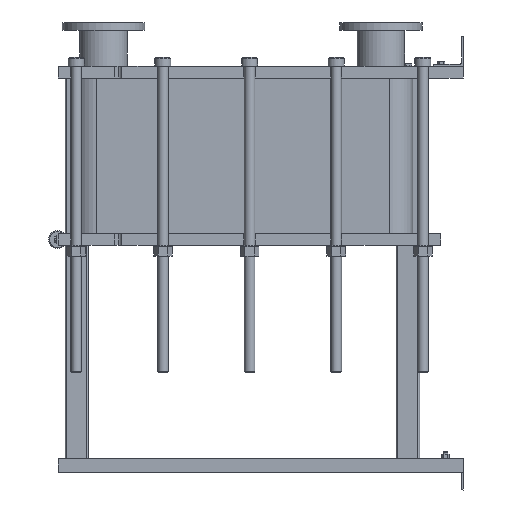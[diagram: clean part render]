
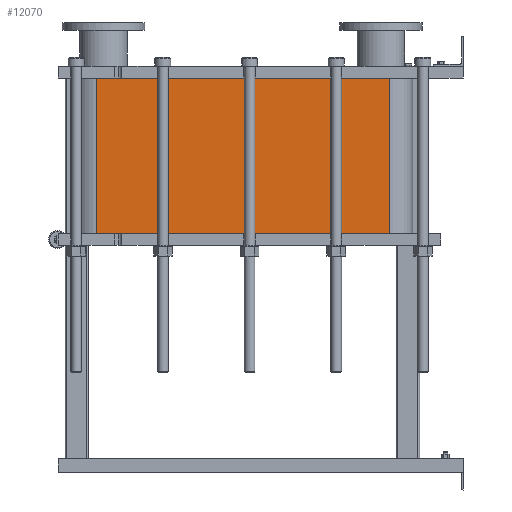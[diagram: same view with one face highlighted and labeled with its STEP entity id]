
A CAD part, left-side view. The second image highlights one B-rep face of the part: STEP entity #12070.
In plain terms, the highlighted planar face has unit normal (-1, 0, 0).
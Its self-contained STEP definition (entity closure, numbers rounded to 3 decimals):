
#1064=LINE('',#21140,#2164);
#1065=LINE('',#21144,#2165);
#1066=LINE('',#21146,#2166);
#1067=LINE('',#21147,#2167);
#2164=VECTOR('',#15790,10.);
#2165=VECTOR('',#15795,10.);
#2166=VECTOR('',#15796,10.);
#2167=VECTOR('',#15797,10.);
#3304=FACE_OUTER_BOUND('',#4091,.T.);
#4091=EDGE_LOOP('',(#9793,#9794,#9795,#9796));
#5677=VERTEX_POINT('',#21137);
#5678=VERTEX_POINT('',#21139);
#5679=VERTEX_POINT('',#21143);
#5680=VERTEX_POINT('',#21145);
#7118=EDGE_CURVE('',#5678,#5677,#1064,.T.);
#7120=EDGE_CURVE('',#5677,#5679,#1065,.T.);
#7121=EDGE_CURVE('',#5680,#5679,#1066,.T.);
#7122=EDGE_CURVE('',#5680,#5678,#1067,.T.);
#9793=ORIENTED_EDGE('',*,*,#7120,.T.);
#9794=ORIENTED_EDGE('',*,*,#7121,.F.);
#9795=ORIENTED_EDGE('',*,*,#7122,.T.);
#9796=ORIENTED_EDGE('',*,*,#7118,.T.);
#11441=PLANE('',#13191);
#12070=ADVANCED_FACE('',(#3304),#11441,.T.);
#13191=AXIS2_PLACEMENT_3D('',#21142,#15793,#15794);
#15790=DIRECTION('',(0.,0.,-1.));
#15793=DIRECTION('center_axis',(-1.,0.,0.));
#15794=DIRECTION('ref_axis',(0.,1.,0.));
#15795=DIRECTION('',(0.,-1.,0.));
#15796=DIRECTION('',(0.,0.,-1.));
#15797=DIRECTION('',(0.,1.,0.));
#21137=CARTESIAN_POINT('',(-248.152,1243.818,-527.85));
#21139=CARTESIAN_POINT('',(-248.152,1243.818,0.));
#21140=CARTESIAN_POINT('',(-248.152,1243.818,0.));
#21142=CARTESIAN_POINT('Origin',(-248.152,251.818,0.));
#21143=CARTESIAN_POINT('',(-248.152,251.818,-527.85));
#21144=CARTESIAN_POINT('',(-248.152,499.818,-527.85));
#21145=CARTESIAN_POINT('',(-248.152,251.818,0.));
#21146=CARTESIAN_POINT('',(-248.152,251.818,0.));
#21147=CARTESIAN_POINT('',(-248.152,251.818,0.));
